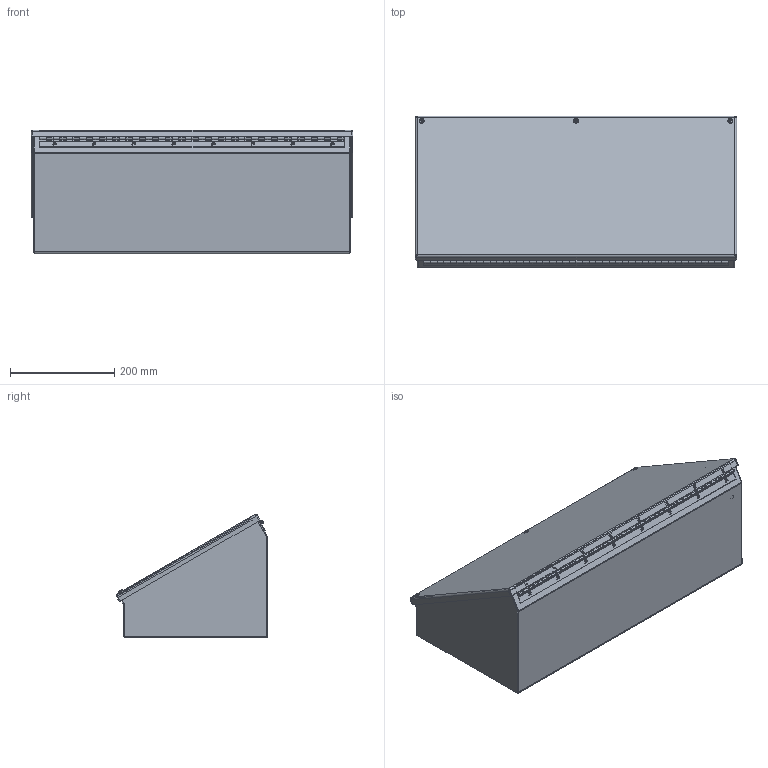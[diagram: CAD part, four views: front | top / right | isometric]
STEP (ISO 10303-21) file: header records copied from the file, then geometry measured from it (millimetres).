
FILE_DESCRIPTION (( 'STEP AP203' ), '1' );
FILE_NAME ('c12c24.STEP', '2013-05-13T15:52:06', ( 'User' ), ( 'Pentair Inc' ), 'SwSTEP 2.0', 'SolidWorks 2010', '' );
FILE_SCHEMA (( 'CONFIG_CONTROL_DESIGN' ));
Products named in the file (18): 89061660; 89061672; 58110009; 31194001_as installed; 87789566_DEFAULT; 26132019_26132002; 59231002; 89069205; c12c24; 89068943_CLOSED; 58308028; 58324011; 58324012; 89069088_CLOSED; 87540312; 99404181; 50103008_CLOSE; 89061659
Assembly tree (23 placements, depth 5):
  c12c24
    87789566_DEFAULT  x3
    26132019_26132002  x3
    89069205
    89068943_CLOSED
      31194001_as installed
      58110009  x3
      58324011
      89069088_CLOSED
        87540312
        99404181
        50103008_CLOSE
          89061660
          89061659
          89061672
      58308028
      58324012
    59231002
Bounding box: 617.09 x 290.95 x 236.9 mm (x, y, z)
Volume: 1394623.3 mm3; surface area: 1500755 mm2
Topology: 22 solids, 22 shells, 1639 faces, 4405 edges, 2866 vertices
Faces by surface type: plane 789, bspline 548, cylinder 242, cone 34, torus 14, sphere 12
Entity records: 69999 total; most frequent: CARTESIAN_POINT 32901, ORIENTED_EDGE 8266, DIRECTION 5481, EDGE_CURVE 4133, VERTEX_POINT 2704, VECTOR 2569, LINE 2569, EDGE_LOOP 1597
